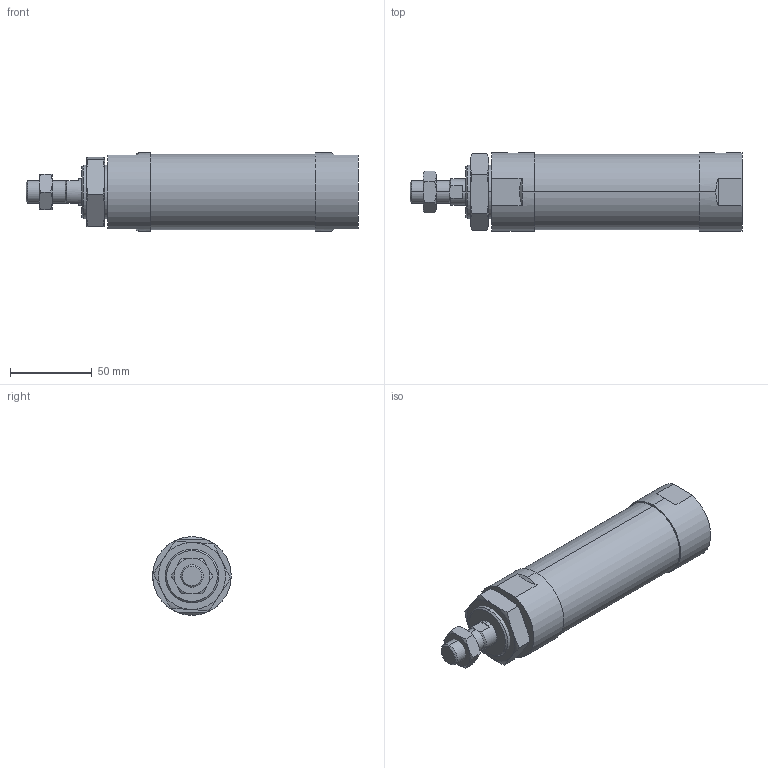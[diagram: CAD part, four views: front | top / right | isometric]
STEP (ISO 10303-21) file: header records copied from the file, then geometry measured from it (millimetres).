
FILE_DESCRIPTION (( 'STEP AP203' ), '1' );
FILE_NAME ('JGND2-40-50-N.STEP', '2016-08-04T03:05:59', ( '' ), ( '' ), 'SwSTEP 2.0', 'SolidWorks 2014', '' );
FILE_SCHEMA (( 'CONFIG_CONTROL_DESIGN' ));
Length unit declared in the file: millimetre
Products named in the file (4): J#2-40-50(P); JGND2-40-50-N
Assembly tree (3 placements, depth 2):
  JGND2-40-50-N
    J#2-40-50(P)
    (unnamed)
    (unnamed)
Bounding box: 203 x 48 x 48 mm (x, y, z)
Volume: 287280.3 mm3; surface area: 36065.1 mm2
Topology: 3 solids, 3 shells, 89 faces, 200 edges, 119 vertices
Faces by surface type: plane 32, torus 24, cylinder 20, cone 13
Entity records: 3305 total; most frequent: CARTESIAN_POINT 1001, DIRECTION 395, ORIENTED_EDGE 392, EDGE_CURVE 196, AXIS2_PLACEMENT_3D 167, VERTEX_POINT 119, EDGE_LOOP 99, FACE_OUTER_BOUND 89
